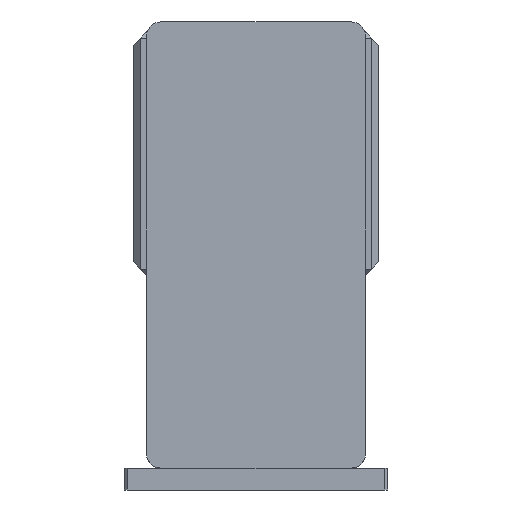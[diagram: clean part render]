
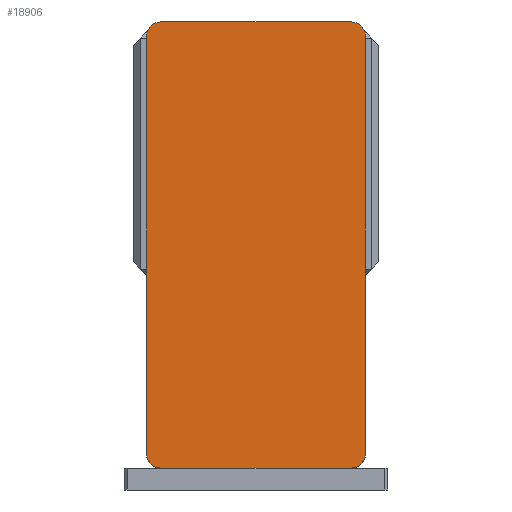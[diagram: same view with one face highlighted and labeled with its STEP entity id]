
A CAD part, left-side view. The second image highlights one B-rep face of the part: STEP entity #18906.
In plain terms, the highlighted planar face has unit normal (-1, 0, 0) as drawn and (0, 0, 1) by its records, which use the part's own axes.
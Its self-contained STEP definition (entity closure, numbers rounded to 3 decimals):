
#253 = DIRECTION ( 'NONE',  ( 1., 0., 0. ) ) ;
#644 = VERTEX_POINT ( 'NONE', #7616 ) ;
#713 = DIRECTION ( 'NONE',  ( 0., 0., 1. ) ) ;
#789 = EDGE_CURVE ( 'NONE', #20371, #15924, #806, .T. ) ;
#806 = LINE ( 'NONE', #10679, #11948 ) ;
#978 = VERTEX_POINT ( 'NONE', #15886 ) ;
#1338 = AXIS2_PLACEMENT_3D ( 'NONE', #3459, #5694, #5900 ) ;
#1751 = CARTESIAN_POINT ( 'NONE',  ( 65., 142.5, 105. ) ) ;
#2034 = CIRCLE ( 'NONE', #19146, 10. ) ;
#2117 = EDGE_CURVE ( 'NONE', #10803, #978, #4033, .T. ) ;
#2552 = EDGE_CURVE ( 'NONE', #978, #3336, #2799, .T. ) ;
#2799 = CIRCLE ( 'NONE', #1338, 10. ) ;
#2925 = EDGE_CURVE ( 'NONE', #644, #17035, #2034, .T. ) ;
#2951 = CARTESIAN_POINT ( 'NONE',  ( 65., 152.5, 105. ) ) ;
#3179 = ORIENTED_EDGE ( 'NONE', *, *, #3292, .T. ) ;
#3292 = EDGE_CURVE ( 'NONE', #19754, #20371, #17676, .T. ) ;
#3336 = VERTEX_POINT ( 'NONE', #16137 ) ;
#3459 = CARTESIAN_POINT ( 'NONE',  ( 65., -142.5, 105. ) ) ;
#3485 = EDGE_CURVE ( 'NONE', #15924, #10803, #3504, .T. ) ;
#3504 = CIRCLE ( 'NONE', #18914, 10. ) ;
#4033 = LINE ( 'NONE', #5121, #11470 ) ;
#4922 = DIRECTION ( 'NONE',  ( 1., 0., 0. ) ) ;
#5121 = CARTESIAN_POINT ( 'NONE',  ( -75., -152.5, 105. ) ) ;
#5499 = CARTESIAN_POINT ( 'NONE',  ( -75., 152.5, 105. ) ) ;
#5694 = DIRECTION ( 'NONE',  ( 0., 0., 1. ) ) ;
#5900 = DIRECTION ( 'NONE',  ( 1., 0., 0. ) ) ;
#6097 = CARTESIAN_POINT ( 'NONE',  ( -75., -142.5, 105. ) ) ;
#6656 = CARTESIAN_POINT ( 'NONE',  ( -75., 142.5, 105. ) ) ;
#7089 = DIRECTION ( 'NONE',  ( -1., 0., 0. ) ) ;
#7486 = DIRECTION ( 'NONE',  ( 0., 1., 0. ) ) ;
#7597 = DIRECTION ( 'NONE',  ( 0., 0., 1. ) ) ;
#7616 = CARTESIAN_POINT ( 'NONE',  ( 75., 142.5, 105. ) ) ;
#8741 = DIRECTION ( 'NONE',  ( 1., 0., 0. ) ) ;
#9059 = CARTESIAN_POINT ( 'NONE',  ( 75., 152.5, 105. ) ) ;
#9347 = DIRECTION ( 'NONE',  ( 0., 0., 1. ) ) ;
#9817 = ORIENTED_EDGE ( 'NONE', *, *, #789, .T. ) ;
#10201 = CARTESIAN_POINT ( 'NONE',  ( 0., 0., 105. ) ) ;
#10406 = ORIENTED_EDGE ( 'NONE', *, *, #2925, .T. ) ;
#10631 = VECTOR ( 'NONE', #7486, 1000. ) ;
#10679 = CARTESIAN_POINT ( 'NONE',  ( -75., 152.5, 105. ) ) ;
#10803 = VERTEX_POINT ( 'NONE', #14562 ) ;
#11111 = LINE ( 'NONE', #9059, #10631 ) ;
#11470 = VECTOR ( 'NONE', #4922, 1000. ) ;
#11665 = CARTESIAN_POINT ( 'NONE',  ( -65., -142.5, 105. ) ) ;
#11785 = DIRECTION ( 'NONE',  ( 1., 0., 0. ) ) ;
#11837 = CARTESIAN_POINT ( 'NONE',  ( -65., 152.5, 105. ) ) ;
#11948 = VECTOR ( 'NONE', #13026, 1000. ) ;
#12468 = DIRECTION ( 'NONE',  ( 0., 0., 1. ) ) ;
#12687 = DIRECTION ( 'NONE',  ( 1., 0., 0. ) ) ;
#12715 = ORIENTED_EDGE ( 'NONE', *, *, #2552, .T. ) ;
#12801 = EDGE_LOOP ( 'NONE', ( #16604, #12715, #13374, #10406, #13816, #3179, #9817, #20030 ) ) ;
#12869 = AXIS2_PLACEMENT_3D ( 'NONE', #15227, #12468, #12687 ) ;
#13026 = DIRECTION ( 'NONE',  ( 0., -1., 0. ) ) ;
#13374 = ORIENTED_EDGE ( 'NONE', *, *, #18535, .T. ) ;
#13816 = ORIENTED_EDGE ( 'NONE', *, *, #19679, .T. ) ;
#14562 = CARTESIAN_POINT ( 'NONE',  ( -65., -152.5, 105. ) ) ;
#15227 = CARTESIAN_POINT ( 'NONE',  ( -65., 142.5, 105. ) ) ;
#15342 = AXIS2_PLACEMENT_3D ( 'NONE', #10201, #713, #11785 ) ;
#15544 = LINE ( 'NONE', #5499, #18835 ) ;
#15886 = CARTESIAN_POINT ( 'NONE',  ( 65., -152.5, 105. ) ) ;
#15924 = VERTEX_POINT ( 'NONE', #6097 ) ;
#16137 = CARTESIAN_POINT ( 'NONE',  ( 75., -142.5, 105. ) ) ;
#16604 = ORIENTED_EDGE ( 'NONE', *, *, #2117, .T. ) ;
#17035 = VERTEX_POINT ( 'NONE', #2951 ) ;
#17676 = CIRCLE ( 'NONE', #12869, 10. ) ;
#18535 = EDGE_CURVE ( 'NONE', #3336, #644, #11111, .T. ) ;
#18835 = VECTOR ( 'NONE', #7089, 1000. ) ;
#18906 = ADVANCED_FACE ( 'NONE', ( #19330 ), #19742, .T. ) ;
#18914 = AXIS2_PLACEMENT_3D ( 'NONE', #11665, #9347, #8741 ) ;
#19146 = AXIS2_PLACEMENT_3D ( 'NONE', #1751, #7597, #253 ) ;
#19330 = FACE_OUTER_BOUND ( 'NONE', #12801, .T. ) ;
#19679 = EDGE_CURVE ( 'NONE', #17035, #19754, #15544, .T. ) ;
#19742 = PLANE ( 'NONE',  #15342 ) ;
#19754 = VERTEX_POINT ( 'NONE', #11837 ) ;
#20030 = ORIENTED_EDGE ( 'NONE', *, *, #3485, .T. ) ;
#20371 = VERTEX_POINT ( 'NONE', #6656 ) ;
